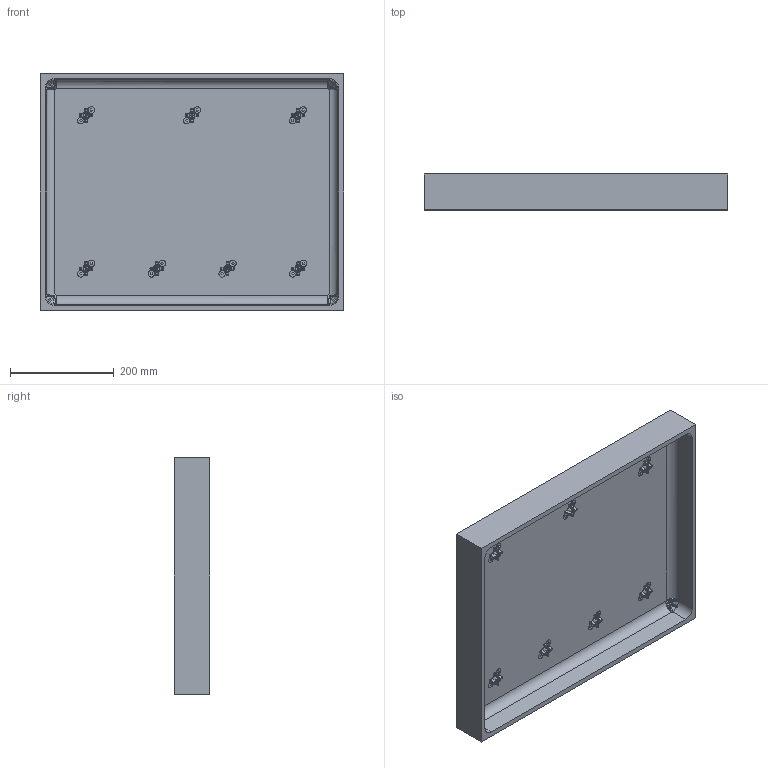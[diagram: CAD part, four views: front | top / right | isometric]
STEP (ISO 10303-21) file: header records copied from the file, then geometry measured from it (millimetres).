
FILE_DESCRIPTION (( 'STEP AP214' ), '1' );
FILE_NAME ('1610 EU.STEP', '2016-02-29T19:13:32', ( '' ), ( '' ), 'SwSTEP 2.0', 'SolidWorks 2016', '' );
FILE_SCHEMA (( 'AUTOMOTIVE_DESIGN' ));
Length unit declared in the file: inch
Products named in the file (1): 1610 EU
Bounding box: 585.21 x 68.58 x 456.43 mm (x, y, z)
Volume: 8235251.2 mm3; surface area: 1371626.9 mm2
Topology: 2 solids, 2 shells, 1128 faces, 2780 edges, 1578 vertices
Faces by surface type: bspline 288, plane 260, cylinder 236, torus 148, sphere 119, cone 77
Entity records: 42839 total; most frequent: CARTESIAN_POINT 19278, ORIENTED_EDGE 5286, DIRECTION 4493, EDGE_CURVE 2643, AXIS2_PLACEMENT_3D 1872, VERTEX_POINT 1564, EDGE_LOOP 1173, FACE_OUTER_BOUND 1128
